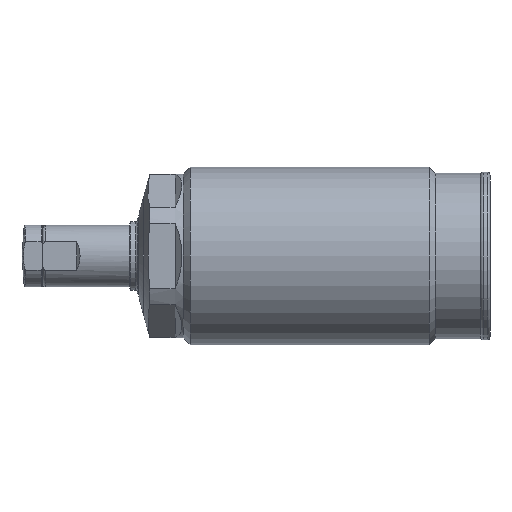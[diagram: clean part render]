
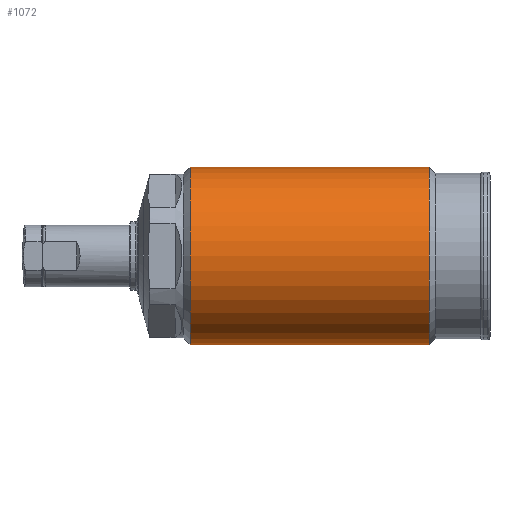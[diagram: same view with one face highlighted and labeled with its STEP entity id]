
A CAD part, left-side view. The second image highlights one B-rep face of the part: STEP entity #1072.
In plain terms, the highlighted cylindrical face has radius 13 mm (diameter 26 mm), a partial arc.
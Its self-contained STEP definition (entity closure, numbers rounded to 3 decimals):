
#795=CYLINDRICAL_SURFACE('',#2843,13.);
#877=LINE('',#4143,#965);
#878=LINE('',#4144,#966);
#965=VECTOR('',#3278,1.);
#966=VECTOR('',#3279,1.);
#1072=ADVANCED_FACE('',(#1240),#795,.T.);
#1240=FACE_OUTER_BOUND('',#1372,.T.);
#1372=EDGE_LOOP('',(#1727,#1728,#1729,#1730));
#1727=ORIENTED_EDGE('',*,*,#2343,.F.);
#1728=ORIENTED_EDGE('',*,*,#2375,.T.);
#1729=ORIENTED_EDGE('',*,*,#2344,.T.);
#1730=ORIENTED_EDGE('',*,*,#2376,.F.);
#2126=VERTEX_POINT('',#4135);
#2127=VERTEX_POINT('',#4137);
#2128=VERTEX_POINT('',#4141);
#2129=VERTEX_POINT('',#4142);
#2343=EDGE_CURVE('',#2129,#2127,#877,.T.);
#2344=EDGE_CURVE('',#2128,#2126,#878,.T.);
#2375=EDGE_CURVE('',#2129,#2128,#2601,.T.);
#2376=EDGE_CURVE('',#2127,#2126,#2602,.T.);
#2601=CIRCLE('',#2840,13.);
#2602=CIRCLE('',#2842,13.);
#2840=AXIS2_PLACEMENT_3D('',#4208,#3366,#3367);
#2842=AXIS2_PLACEMENT_3D('',#4210,#3370,#3371);
#2843=AXIS2_PLACEMENT_3D('',#4211,#3372,#3373);
#3278=DIRECTION('',(0.,1.,0.));
#3279=DIRECTION('',(0.,1.,0.));
#3366=DIRECTION('',(0.,1.,0.));
#3367=DIRECTION('',(0.,0.,1.));
#3370=DIRECTION('',(0.,1.,0.));
#3371=DIRECTION('',(0.,0.,1.));
#3372=DIRECTION('',(0.,1.,0.));
#3373=DIRECTION('',(0.,0.,-1.));
#4135=CARTESIAN_POINT('',(0.,43.9,13.));
#4137=CARTESIAN_POINT('',(0.,43.9,-13.));
#4141=CARTESIAN_POINT('',(0.,8.9,13.));
#4142=CARTESIAN_POINT('',(0.,8.9,-13.));
#4143=CARTESIAN_POINT('',(0.,52.7,-13.));
#4144=CARTESIAN_POINT('',(0.,52.7,13.));
#4208=CARTESIAN_POINT('',(0.,8.9,0.));
#4210=CARTESIAN_POINT('',(0.,43.9,0.));
#4211=CARTESIAN_POINT('',(0.,52.7,0.));
